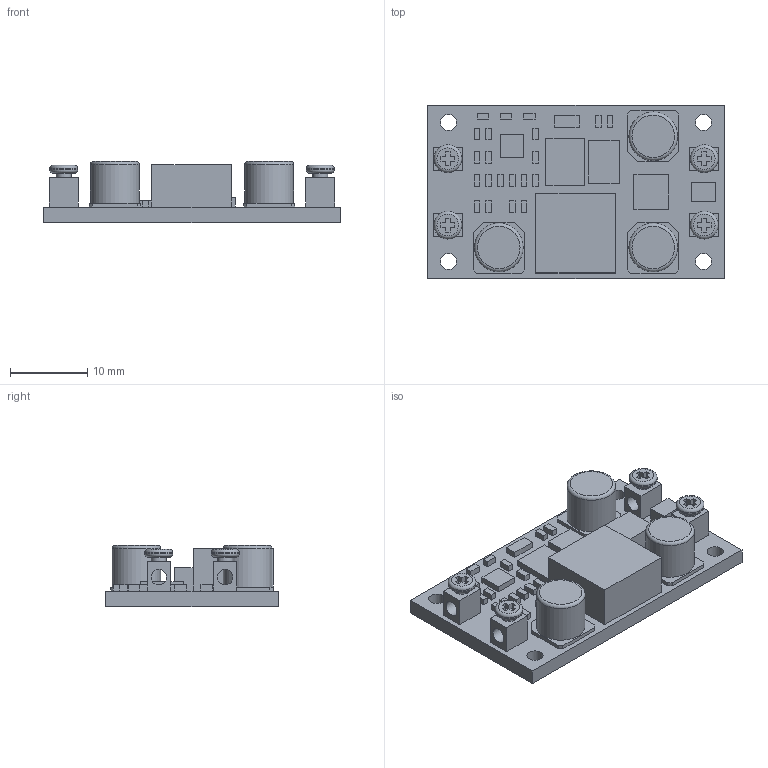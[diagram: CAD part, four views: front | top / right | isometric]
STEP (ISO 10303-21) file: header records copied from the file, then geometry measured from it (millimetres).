
FILE_DESCRIPTION( ( 'STEP AP203' ), '1' );
FILE_NAME( 'E:/Program Files (x86)/Program Files/Files/Design/UHF结构/盒体/功放底板/模型/8.4V-11A.stp', '2026-04-23T08:29:21', ( ' ' ), ( ' ' ), 'XStep 1.0', ' ', ' ' );
FILE_SCHEMA( ( 'CONFIG_CONTROL_DESIGN) ( )' ) );
Length unit declared in the file: metre
Products named in the file (1): 1
Bounding box: 38.4 x 22.4 x 7.9 mm (x, y, z)
Volume: 3168.1 mm3; surface area: 3178.6 mm2
Topology: 1 solids, 1 shells, 286 faces, 702 edges, 468 vertices
Faces by surface type: plane 256, cylinder 19, torus 11
Full cylindrical faces by diameter (mm): 2 x8, 2.1 x4, 3.6 x4, 6.3 x3
Entity records: 8122 total; most frequent: CARTESIAN_POINT 1405, ORIENTED_EDGE 1322, DIRECTION 1284, EDGE_CURVE 661, LINE 612, VECTOR 612, VERTEX_POINT 457, EDGE_LOOP 382
